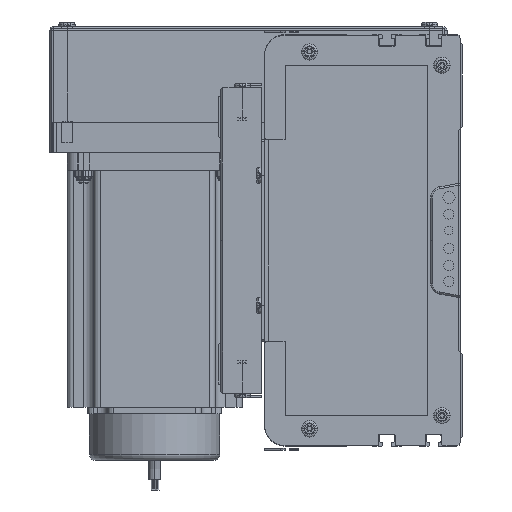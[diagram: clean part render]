
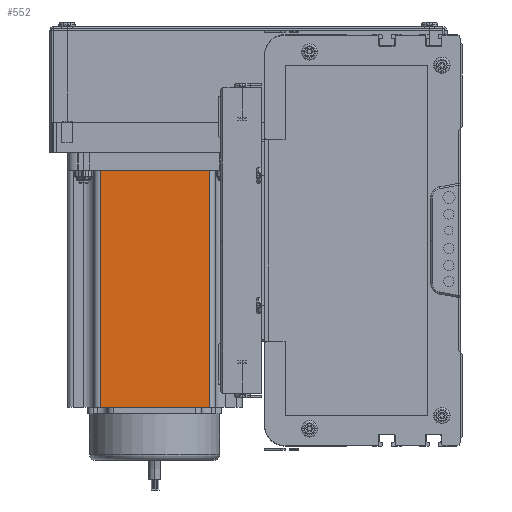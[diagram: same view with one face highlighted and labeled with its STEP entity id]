
A CAD part, left-side view. The second image highlights one B-rep face of the part: STEP entity #552.
In plain terms, the highlighted planar face has unit normal (-1, 0, 0) as drawn and (0, -1, 0) by its records, which use the part's own axes.
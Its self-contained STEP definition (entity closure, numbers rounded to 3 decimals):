
#454 = VERTEX_POINT ( 'NONE', #19203 ) ;
#458 = EDGE_CURVE ( 'NONE', #744, #591, #19191, .T. ) ;
#487 = ORIENTED_EDGE ( 'NONE', *, *, #493, .F. ) ;
#492 = EDGE_LOOP ( 'NONE', ( #665, #854, #487, #682 ) ) ;
#493 = EDGE_CURVE ( 'NONE', #454, #901, #19137, .T. ) ;
#552 = ADVANCED_FACE ( 'NONE', ( #19430 ), #19494, .F. ) ;
#591 = VERTEX_POINT ( 'NONE', #19544 ) ;
#665 = ORIENTED_EDGE ( 'NONE', *, *, #458, .T. ) ;
#678 = EDGE_CURVE ( 'NONE', #454, #744, #19642, .T. ) ;
#682 = ORIENTED_EDGE ( 'NONE', *, *, #678, .T. ) ;
#743 = EDGE_CURVE ( 'NONE', #591, #901, #19687, .T. ) ;
#744 = VERTEX_POINT ( 'NONE', #19689 ) ;
#854 = ORIENTED_EDGE ( 'NONE', *, *, #743, .T. ) ;
#901 = VERTEX_POINT ( 'NONE', #20194 ) ;
#19116 = DIRECTION ( 'NONE',  ( 1., 0., 0. ) ) ;
#19117 = VECTOR ( 'NONE', #19116, 1000. ) ;
#19137 = LINE ( 'NONE', #19172, #19170 ) ;
#19168 = DIRECTION ( 'NONE',  ( 1., 0., 0. ) ) ;
#19170 = VECTOR ( 'NONE', #19168, 1000. ) ;
#19172 = CARTESIAN_POINT ( 'NONE',  ( 0., 0., 116.5 ) ) ;
#19190 = CARTESIAN_POINT ( 'NONE',  ( 0., 0., 0. ) ) ;
#19191 = LINE ( 'NONE', #19190, #19117 ) ;
#19203 = CARTESIAN_POINT ( 'NONE',  ( 16.16, 0., 116.5 ) ) ;
#19220 = CARTESIAN_POINT ( 'NONE',  ( 0., 0., 116.5 ) ) ;
#19223 = AXIS2_PLACEMENT_3D ( 'NONE', #19220, #19437, #19418 ) ;
#19418 = DIRECTION ( 'NONE',  ( 0., 0., 1. ) ) ;
#19430 = FACE_OUTER_BOUND ( 'NONE', #492, .T. ) ;
#19437 = DIRECTION ( 'NONE',  ( 0., 1., 0. ) ) ;
#19494 = PLANE ( 'NONE',  #19223 ) ;
#19544 = CARTESIAN_POINT ( 'NONE',  ( 69.74, 0., 0. ) ) ;
#19639 = VECTOR ( 'NONE', #19882, 1000. ) ;
#19640 = CARTESIAN_POINT ( 'NONE',  ( 16.16, 0., 116.5 ) ) ;
#19642 = LINE ( 'NONE', #19640, #19639 ) ;
#19682 = DIRECTION ( 'NONE',  ( 0., 0., 1. ) ) ;
#19684 = VECTOR ( 'NONE', #19682, 1000. ) ;
#19686 = CARTESIAN_POINT ( 'NONE',  ( 69.74, 0., 116.5 ) ) ;
#19687 = LINE ( 'NONE', #19686, #19684 ) ;
#19689 = CARTESIAN_POINT ( 'NONE',  ( 16.16, 0., 0. ) ) ;
#19882 = DIRECTION ( 'NONE',  ( 0., 0., -1. ) ) ;
#20194 = CARTESIAN_POINT ( 'NONE',  ( 69.74, 0., 116.5 ) ) ;
